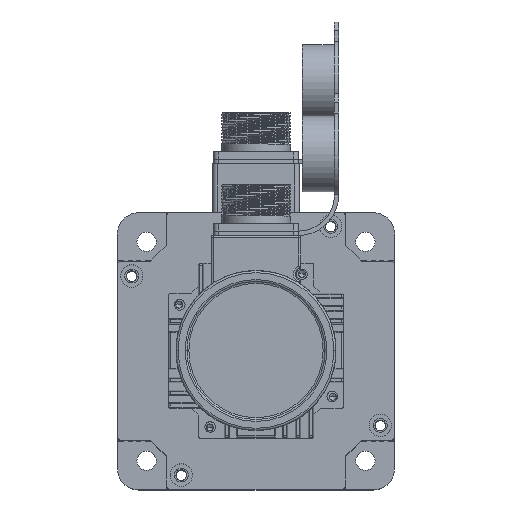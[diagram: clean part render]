
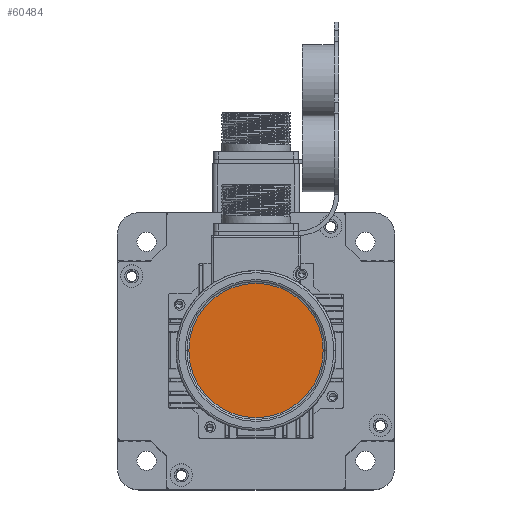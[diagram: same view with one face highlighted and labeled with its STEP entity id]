
A CAD part, top view. The second image highlights one B-rep face of the part: STEP entity #60484.
In plain terms, the highlighted planar face has unit normal (0, 0, 1) as drawn and (0, 0, -1) by its records, which use the part's own axes.
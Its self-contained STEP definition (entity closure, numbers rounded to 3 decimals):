
#273 = CARTESIAN_POINT ( 'NONE',  ( 0., 0., -41.5 ) ) ;
#683 = CARTESIAN_POINT ( 'NONE',  ( 0., 0., -41.5 ) ) ;
#5502 = DIRECTION ( 'NONE',  ( -1., 0., 0. ) ) ;
#5942 = DIRECTION ( 'NONE',  ( -1., 0., 0. ) ) ;
#7455 = CIRCLE ( 'NONE', #16989, 31.5 ) ;
#9609 = CARTESIAN_POINT ( 'NONE',  ( 31.5, 0., -41.5 ) ) ;
#10021 = VERTEX_POINT ( 'NONE', #39346 ) ;
#13801 = EDGE_CURVE ( 'NONE', #16943, #10021, #7455, .T. ) ;
#16943 = VERTEX_POINT ( 'NONE', #9609 ) ;
#16989 = AXIS2_PLACEMENT_3D ( 'NONE', #683, #34218, #5502 ) ;
#26492 = CARTESIAN_POINT ( 'NONE',  ( 0., 0., -41.5 ) ) ;
#27234 = AXIS2_PLACEMENT_3D ( 'NONE', #273, #34647, #5942 ) ;
#31294 = DIRECTION ( 'NONE',  ( -1., 0., 0. ) ) ;
#32522 = FACE_OUTER_BOUND ( 'NONE', #52533, .T. ) ;
#34218 = DIRECTION ( 'NONE',  ( 0., 0., -1. ) ) ;
#34647 = DIRECTION ( 'NONE',  ( 0., 0., -1. ) ) ;
#36333 = EDGE_CURVE ( 'NONE', #10021, #16943, #37196, .T. ) ;
#37196 = CIRCLE ( 'NONE', #27234, 31.5 ) ;
#38264 = AXIS2_PLACEMENT_3D ( 'NONE', #26492, #59993, #31294 ) ;
#39346 = CARTESIAN_POINT ( 'NONE',  ( -31.5, 0., -41.5 ) ) ;
#40509 = ORIENTED_EDGE ( 'NONE', *, *, #13801, .T. ) ;
#45480 = PLANE ( 'NONE',  #38264 ) ;
#52533 = EDGE_LOOP ( 'NONE', ( #57006, #40509 ) ) ;
#57006 = ORIENTED_EDGE ( 'NONE', *, *, #36333, .T. ) ;
#59993 = DIRECTION ( 'NONE',  ( 0., 0., -1. ) ) ;
#60484 = ADVANCED_FACE ( 'NONE', ( #32522 ), #45480, .T. ) ;
